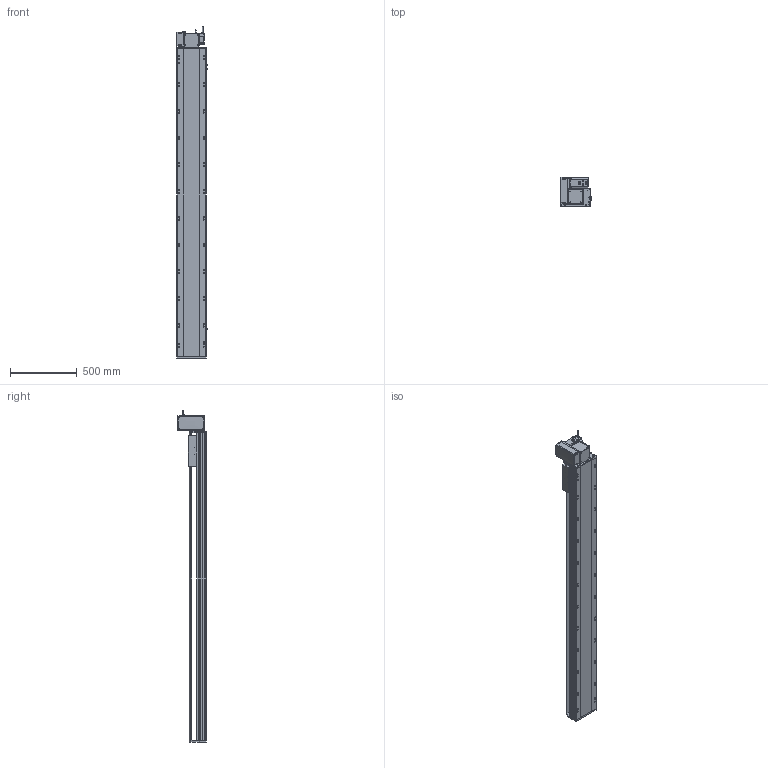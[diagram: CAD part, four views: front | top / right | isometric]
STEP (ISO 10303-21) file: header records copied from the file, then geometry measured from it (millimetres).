
FILE_DESCRIPTION (( 'STEP AP214' ), '1' );
FILE_NAME ('RTB22S-XX-1950-LW-M75-C4.STEP', '2025-12-12T06:00:16', ( '' ), ( '' ), 'SwSTEP 2.0', 'SolidWorks 2018', '' );
FILE_SCHEMA (( 'AUTOMOTIVE_DESIGN' ));
Length unit declared in the file: millimetre
Products named in the file (14): OMRON EE-SX672 传感器^RTB22S-XX-XX-LW-M75-C4; RTB22S-GY-007奻裔^RTB22S-XX-XX-LW-M75-C4; RTB22S-GY-014--々湍釱^RTB22S-LW-々湍釱蚾饜_RTB22S-XX-XX-LW-M75-C4; RTB22S-GY-005P^RTB22S-LW-々湍釱蚾饜_RTB22S-XX-XX-LW-M75-C4; RTB22S-XX-1950-LW-M75-C4; RTB22S-GY-017P^RTB22S-LW-々湍釱蚾饜_RTB22S-XX-XX-LW-M75-C4; RTB22S-GY-008-M75--萇儂啣^RTB22S-LW-々湍釱蚾饜_RTB22S-XX-XX-LW-M75-C4; RTB22S-L-011菁釱^RTB22S-XX-XX-LW-M75-C4; RTH22-GY-013外置感应片^RTB22S-XX-XX-LW-M75-C4; 750W萇儂^RTB22S-XX-XX-LW-M75-C4; RTB22S-LW-々湍釱蚾饜^RTB22S-XX-XX-LW-M75-C4; RTB22S-GY-001耜裔^RTB22S-XX-XX-LW-M75-C4; RTB22S-GY-018P^RTB22S-LW-々湍釱蚾饜_RTB22S-XX-XX-LW-M75-C4; RTB22S-L-004賑釱^RTB22S-XX-XX-LW-M75-C4
Assembly tree (16 placements, depth 3):
  RTB22S-XX-1950-LW-M75-C4
    RTB22S-L-011菁釱^RTB22S-XX-XX-LW-M75-C4
    RTB22S-GY-001耜裔^RTB22S-XX-XX-LW-M75-C4
    750W萇儂^RTB22S-XX-XX-LW-M75-C4
    RTB22S-GY-007奻裔^RTB22S-XX-XX-LW-M75-C4
    RTB22S-L-004賑釱^RTB22S-XX-XX-LW-M75-C4
    RTH22-GY-013外置感应片^RTB22S-XX-XX-LW-M75-C4
    OMRON EE-SX672 传感器^RTB22S-XX-XX-LW-M75-C4  x3
    RTB22S-LW-々湍釱蚾饜^RTB22S-XX-XX-LW-M75-C4
      RTB22S-GY-014--々湍釱^RTB22S-LW-々湍釱蚾饜_RTB22S-XX-XX-LW-M75-C4
      RTB22S-GY-017P^RTB22S-LW-々湍釱蚾饜_RTB22S-XX-XX-LW-M75-C4  x2
      RTB22S-GY-005P^RTB22S-LW-々湍釱蚾饜_RTB22S-XX-XX-LW-M75-C4
      RTB22S-GY-008-M75--萇儂啣^RTB22S-LW-々湍釱蚾饜_RTB22S-XX-XX-LW-M75-C4
      RTB22S-GY-018P^RTB22S-LW-々湍釱蚾饜_RTB22S-XX-XX-LW-M75-C4
Bounding box: 238.5 x 215.5 x 2482.2 mm (x, y, z)
Volume: 32357854.4 mm3; surface area: 3322706.8 mm2
Topology: 15 solids, 15 shells, 2055 faces, 5586 edges, 3572 vertices
Faces by surface type: plane 923, cylinder 670, bspline 296, cone 154, sphere 8, torus 4
Entity records: 55400 total; most frequent: CARTESIAN_POINT 15764, ORIENTED_EDGE 7928, DIRECTION 7698, EDGE_CURVE 3964, AXIS2_PLACEMENT_3D 2742, VERTEX_POINT 2576, LINE 2214, VECTOR 2214
